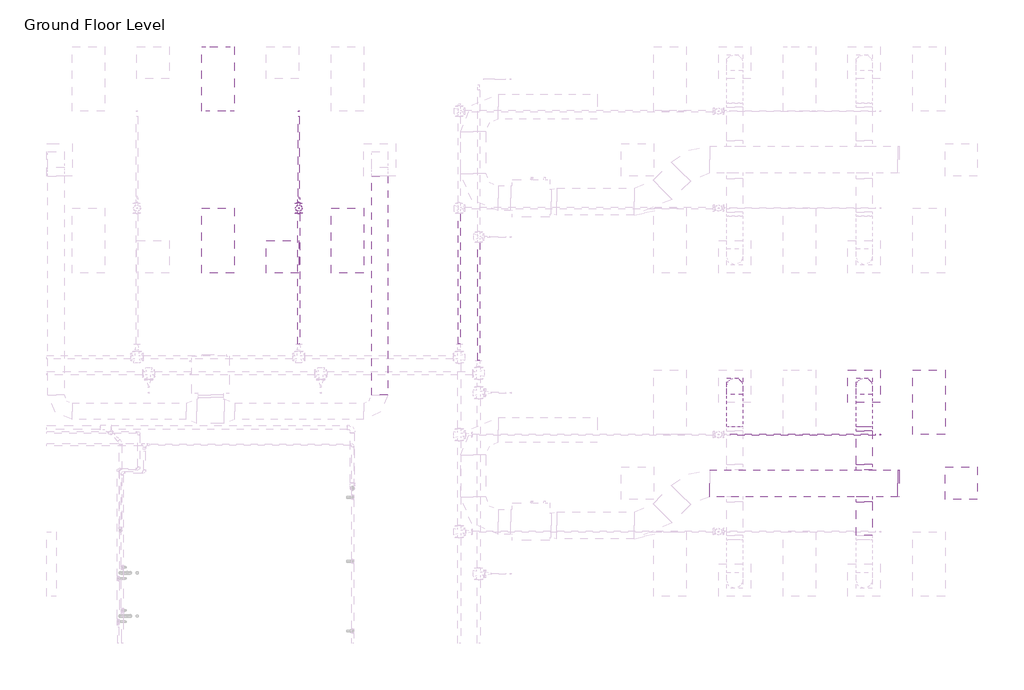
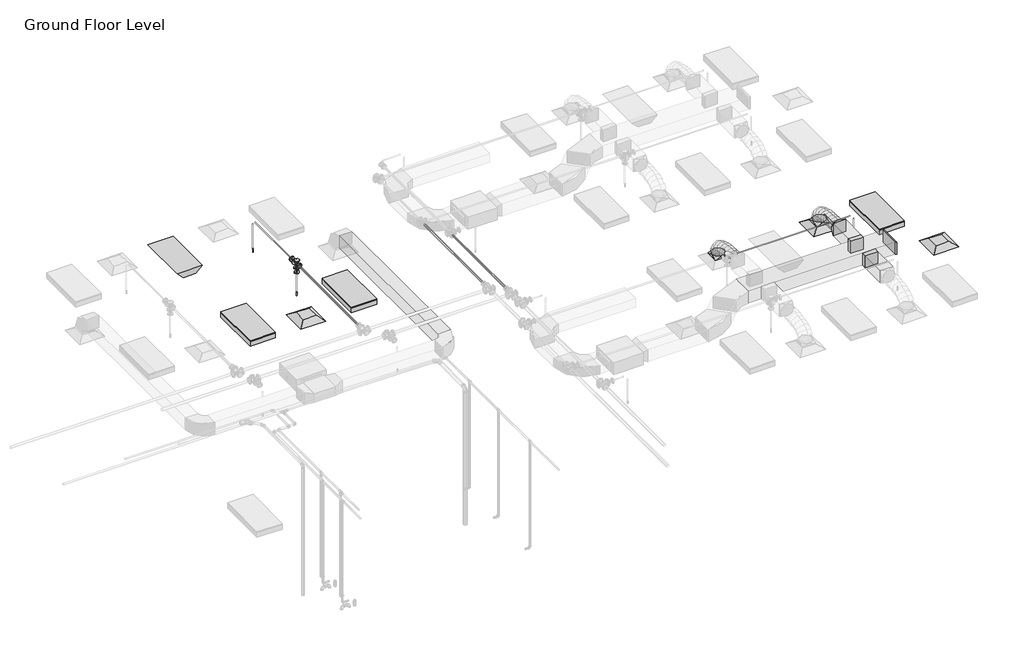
# One storey, part 65 of 68: 8 pipe segments, 6 duct fittings, 6 duct segments, 4 light fixtures, 3 air terminals, 3 fire suppression terminals, 3 pipe fittings.
"""IFC4 building model written with IfcOpenShell, lengths in millimetres."""

from ifc_helpers import new_model, si_unit, point, frame, frame_2d, origin, place, context, project, spatial, polyline, circle_curve, ellipse_curve, trimmed, segment, composite_curve, outline, extrude, transform, mapped, element, save
from ifc_brep_helpers import plane_surface, cylinder_surface, advanced_brep
from components import m_return_diffuser_600_x_600_face_300_x_300_connection_ff221211, m_rectangular_endcap_standard_72d4d00d, m_rectangular_takeoff_standard_cb0ccb98, m_rectangular_takeoff_standard_2be5eba1, m_rectangular_to_round_transition_angle_45_degree_641efff0, m_sprinkler_dry_pendent_hosted_15_mm_dry_pendent_9bda8e11, m_emergency_recessed_lighting_fixture_600x1200_277_5b10b25d, m_troffer_light_parabolic_rectangular1_0600x1200mm_4_lamp_86473d4a, m_reducer_flanged_cs_class_150_standard_d42b2106, m_tee_round_base_flanged_cs_class_150_standard_7e5987a1

model = new_model("IFC4")

# Units and contexts
model_context = context("Model", 3, world=origin())
ifc_project = project(units=[si_unit("LENGTHUNIT", "METRE", prefix="MILLI")], contexts=[model_context])

# Site, building, storey
site = spatial("IfcSite", under=ifc_project)
building = spatial("IfcBuilding", under=site)
storey = spatial("IfcBuildingStorey", under=building, Name="Ground Floor Level", Elevation=900.0)

# Air terminals
placement = place(None, origin())
m_return_diffuser_600_x_600_face_300_x_300_connection_shape = m_return_diffuser_600_x_600_face_300_x_300_connection_ff221211(model_context)
element("IfcAirTerminal", 1, ObjectType="M_Return Diffuser : 600 x 600 Face 300 x 300 Connection", at=placement, inside=storey, context=model_context, shape_type="MappedRepresentation", body=[
    mapped(m_return_diffuser_600_x_600_face_300_x_300_connection_shape, transform((14942.7672395, 12735.2153534, 3650.0), x_axis=(1.0, 0.0, 0.0), y_axis=(0.0, 1.0, 0.0), z_axis=(0.0, 0.0, 1.0))),
])
element("IfcAirTerminal", 2, ObjectType="M_Supply Diffuser : 600 x 600 Face 300 x 300 Connection", at=placement, inside=storey, context=model_context, shape_type="MappedRepresentation", body=[
    mapped(m_return_diffuser_600_x_600_face_300_x_300_connection_shape, transform((2362.7672395, 16935.2153534, 3650.0), x_axis=(1.0, 0.0, 0.0), y_axis=(0.0, 1.0, 0.0), z_axis=(0.0, 0.0, 1.0))),
])
element("IfcAirTerminal", 3, ObjectType="M_Supply Diffuser : 600 x 600 Face 300 x 300 Connection", at=placement, inside=storey, context=model_context, shape_type="MappedRepresentation", body=[
    mapped(m_return_diffuser_600_x_600_face_300_x_300_connection_shape, transform((13142.7672395, 14535.2153534, 3650.0), x_axis=(1.0, 0.0, 0.0), y_axis=(0.0, 1.0, 0.0), z_axis=(0.0, 0.0, 1.0))),
])

# Duct fittings
m_rectangular_endcap_standard_shape = m_rectangular_endcap_standard_72d4d00d(model_context)
element("IfcDuctFitting", 4, ObjectType="M_Rectangular Endcap : Standard", at=placement, inside=storey, context=model_context, shape_type="MappedRepresentation", body=[
    mapped(m_rectangular_endcap_standard_shape, transform((13766.7301365, 12735.2153534, 4100.0), x_axis=(1.0, 0.0, 0.0), y_axis=(0.0, 1.0, 0.0), z_axis=(0.0, 0.0, 1.0))),
])
m_rectangular_takeoff_standard_shape = m_rectangular_takeoff_standard_cb0ccb98(model_context)
element("IfcDuctFitting", 5, ObjectType="M_Rectangular Takeoff : Standard", at=placement, inside=storey, context=model_context, shape_type="MappedRepresentation", body=[
    mapped(m_rectangular_takeoff_standard_shape, transform((13142.7672395, 12985.2153534, 4100.0), x_axis=(0.0, 1.0, 0.0), y_axis=(1.0, 0.0, 0.0), z_axis=(0.0, 0.0, -1.0))),
])
m_rectangular_takeoff_standard_2_shape = m_rectangular_takeoff_standard_2be5eba1(model_context)
element("IfcDuctFitting", 6, ObjectType="M_Rectangular Takeoff : Standard", at=placement, inside=storey, context=model_context, shape_type="MappedRepresentation", body=[
    mapped(m_rectangular_takeoff_standard_2_shape, transform((13142.7672395, 12485.2153534, 4100.0), x_axis=(0.0, -1.0, 0.0), y_axis=(-1.0, 0.0, 0.0), z_axis=(0.0, 0.0, -1.0))),
])
m_rectangular_to_round_transition_angle_45_degree_shape = m_rectangular_to_round_transition_angle_45_degree_641efff0(model_context)
element("IfcDuctFitting", 7, ObjectType="M_Rectangular to Round Transition - Angle : 45 Degree", at=placement, inside=storey, context=model_context, shape_type="MappedRepresentation", body=[
    mapped(m_rectangular_to_round_transition_angle_45_degree_shape, transform((10742.7672395, 14535.2153534, 3751.6), x_axis=(0.0, 0.0, 1.0), y_axis=(-1.0, 0.0, 0.0), z_axis=(0.0, -1.0, 0.0))),
])
element("IfcDuctFitting", 8, ObjectType="M_Rectangular to Round Transition - Angle : 45 Degree", at=placement, inside=storey, context=model_context, shape_type="MappedRepresentation", body=[
    mapped(m_rectangular_to_round_transition_angle_45_degree_shape, transform((13142.7672395, 14535.2153534, 3751.6), x_axis=(0.0, 0.0, 1.0), y_axis=(-1.0, 0.0, 0.0), z_axis=(0.0, -1.0, 0.0))),
])
element("IfcDuctFitting", 9, ObjectType="M_Rectangular to Round Transition - Angle : 45 Degree", at=placement, inside=storey, context=model_context, shape_type="MappedRepresentation", body=[
    mapped(m_rectangular_to_round_transition_angle_45_degree_shape, transform((13142.7672395, 13707.8794221, 4100.0), x_axis=(0.0, 1.0, 0.0), y_axis=(-1.0, 0.0, 0.0), z_axis=(0.0, 0.0, 1.0))),
])

# Duct segments
element("IfcDuctSegment", 10, ObjectType="Flex - Round", at=placement, inside=storey, context=model_context, shape_type="AdvancedBrep", body=[
    advanced_brep(
    [(10892.7672395, 14535.2153534, 3826.6), (10742.7672395, 14385.2153534, 3826.6), (10592.7672395, 14535.2153534, 3826.6), (10742.7672395, 14685.2153534, 3826.6), (10892.7672395, 14535.2153534, 3857.9377114), (10742.7672395, 14385.2153534, 3832.2944892), (10592.7672395, 14535.2153534, 3857.9377114), (10742.7672395, 14685.2153534, 3883.5809337), (10892.7672395, 14518.1994208, 3906.2505728), (10742.7672395, 14384.4614419, 3834.435049), (10592.7672395, 14518.1994208, 3906.2505728), (10742.7672395, 14651.9373998, 3978.0660967), (10892.7672395, 14471.0155405, 3968.7113131), (10742.7672395, 14366.8096412, 3857.8020236), (10592.7672395, 14471.0155405, 3968.7113131), (10742.7672395, 14575.2214397, 4079.6206026), (10892.7672395, 14399.4595883, 4016.0700639), (10742.7672395, 14330.5255327, 3881.8163788), (10592.7672395, 14399.4595883, 4016.0700639), (10742.7672395, 14468.3936439, 4150.3237489), (10892.7672395, 14309.3274403, 4050.4146682), (10742.7672395, 14265.7666771, 3906.4925606), (10592.7672395, 14309.3274403, 4050.4146682), (10742.7672395, 14352.8882035, 4194.3367758), (10892.7672395, 14206.4149725, 4073.8329691), (10742.7672395, 14179.8540485, 3926.0424542), (10592.7672395, 14206.4149725, 4073.8329691), (10742.7672395, 14232.9758965, 4221.6234841), (10892.7672395, 14096.5180607, 4088.4128097), (10742.7672395, 14081.3671584, 3939.1085462), (10592.7672395, 14096.5180607, 4088.4128097), (10742.7672395, 14111.6689631, 4237.7170733), (10892.7672395, 13985.4325811, 4096.242033), (10742.7672395, 13977.9272529, 3946.398915), (10592.7672395, 13985.4325811, 4096.242033), (10742.7672395, 13992.9379093, 4246.085151), (10892.7672395, 13878.9544096, 4099.4084821), (10742.7672395, 13876.2629165, 3949.4222102), (10592.7672395, 13878.9544096, 4099.4084821), (10742.7672395, 13881.6459027, 4249.394754), (10892.7672395, 13782.8794221, 4100.0), (10742.7672395, 13783.8029299, 4249.9971571), (10592.7672395, 13782.8794221, 4100.0), (10742.7672395, 13781.9559143, 3950.0028429)],
    [
        (0, 1, circle_curve(frame((10742.7672395, 14535.2153534, 3826.6), z_axis=(0.0, 0.0, -1.0), x_axis=(1.0, 0.0, 0.0)), 150.0)),
        (1, 2, circle_curve(frame((10742.7672395, 14535.2153534, 3826.6), z_axis=(0.0, 0.0, -1.0), x_axis=(1.0, 0.0, 0.0)), 150.0)),
        (2, 3, circle_curve(frame((10742.7672395, 14535.2153534, 3826.6), z_axis=(0.0, 0.0, -1.0), x_axis=(1.0, 0.0, 0.0)), 150.0)),
        (3, 0, circle_curve(frame((10742.7672395, 14535.2153534, 3826.6), z_axis=(0.0, 0.0, -1.0), x_axis=(1.0, 0.0, 0.0)), 150.0)),
        (0, 4),
        (4, 5, ellipse_curve(frame((10742.7672395, 14535.2153534, 3857.9377114), z_axis=(0.0, 0.16851014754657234, -0.9856999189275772), x_axis=(0.0, -0.9856999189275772, -0.1685101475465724)), 152.176131, 150.0)),
        (5, 1),
        (5, 6, ellipse_curve(frame((10742.7672395, 14535.2153534, 3857.9377114), z_axis=(0.0, 0.16851014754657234, -0.9856999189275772), x_axis=(0.0, -0.9856999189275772, -0.1685101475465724)), 152.176131, 150.0)),
        (6, 2),
        (6, 7, ellipse_curve(frame((10742.7672395, 14535.2153534, 3857.9377114), z_axis=(0.0, 0.16851014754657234, -0.9856999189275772), x_axis=(0.0, -0.9856999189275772, -0.1685101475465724)), 152.176131, 150.0)),
        (7, 3),
        (7, 4, ellipse_curve(frame((10742.7672395, 14535.2153534, 3857.9377114), z_axis=(0.0, 0.16851014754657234, -0.9856999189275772), x_axis=(0.0, -0.9856999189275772, -0.1685101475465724)), 152.176131, 150.0)),
        (4, 8),
        (8, 9, ellipse_curve(frame((10742.7672395, 14518.1994208, 3906.2505728), z_axis=(0.0, 0.47309225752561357, -0.8810128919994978), x_axis=(0.0, -0.8810128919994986, -0.47309225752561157)), 151.8002519, 150.0)),
        (9, 5),
        (9, 10, ellipse_curve(frame((10742.7672395, 14518.1994208, 3906.2505728), z_axis=(0.0, 0.47309225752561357, -0.8810128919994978), x_axis=(0.0, -0.8810128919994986, -0.47309225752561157)), 151.8002519, 150.0)),
        (10, 6),
        (10, 11, ellipse_curve(frame((10742.7672395, 14518.1994208, 3906.2505728), z_axis=(0.0, 0.47309225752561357, -0.8810128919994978), x_axis=(0.0, -0.8810128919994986, -0.47309225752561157)), 151.8002519, 150.0)),
        (11, 7),
        (11, 8, ellipse_curve(frame((10742.7672395, 14518.1994208, 3906.2505728), z_axis=(0.0, 0.47309225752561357, -0.8810128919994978), x_axis=(0.0, -0.8810128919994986, -0.47309225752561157)), 151.8002519, 150.0)),
        (8, 12),
        (12, 13, ellipse_curve(frame((10742.7672395, 14471.0155405, 3968.7113131), z_axis=(0.0, 0.7287877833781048, -0.6847396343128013), x_axis=(0.0, -0.6847396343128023, -0.7287877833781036)), 152.1832446, 150.0)),
        (13, 9),
        (13, 14, ellipse_curve(frame((10742.7672395, 14471.0155405, 3968.7113131), z_axis=(0.0, 0.7287877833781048, -0.6847396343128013), x_axis=(0.0, -0.6847396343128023, -0.7287877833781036)), 152.1832446, 150.0)),
        (14, 10),
        (14, 15, ellipse_curve(frame((10742.7672395, 14471.0155405, 3968.7113131), z_axis=(0.0, 0.7287877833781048, -0.6847396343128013), x_axis=(0.0, -0.6847396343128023, -0.7287877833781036)), 152.1832446, 150.0)),
        (15, 11),
        (15, 12, ellipse_curve(frame((10742.7672395, 14471.0155405, 3968.7113131), z_axis=(0.0, 0.7287877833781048, -0.6847396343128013), x_axis=(0.0, -0.6847396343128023, -0.7287877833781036)), 152.1832446, 150.0)),
        (12, 16),
        (16, 17, ellipse_curve(frame((10742.7672395, 14399.4595883, 4016.0700639), z_axis=(0.0, 0.8895859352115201, -0.45676784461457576), x_axis=(0.0, -0.45676784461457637, -0.8895859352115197)), 150.91705, 150.0)),
        (17, 13),
        (17, 18, ellipse_curve(frame((10742.7672395, 14399.4595883, 4016.0700639), z_axis=(0.0, 0.8895859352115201, -0.45676784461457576), x_axis=(0.0, -0.45676784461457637, -0.8895859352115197)), 150.91705, 150.0)),
        (18, 14),
        (18, 19, ellipse_curve(frame((10742.7672395, 14399.4595883, 4016.0700639), z_axis=(0.0, 0.8895859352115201, -0.45676784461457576), x_axis=(0.0, -0.45676784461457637, -0.8895859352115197)), 150.91705, 150.0)),
        (19, 15),
        (19, 16, ellipse_curve(frame((10742.7672395, 14399.4595883, 4016.0700639), z_axis=(0.0, 0.8895859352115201, -0.45676784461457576), x_axis=(0.0, -0.45676784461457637, -0.8895859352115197)), 150.91705, 150.0)),
        (16, 20),
        (20, 21, ellipse_curve(frame((10742.7672395, 14309.3274403, 4050.4146682), z_axis=(0.0, 0.9571203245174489, -0.2896906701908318), x_axis=(0.0, -0.28969067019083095, -0.9571203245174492)), 150.369921, 150.0)),
        (21, 17),
        (21, 22, ellipse_curve(frame((10742.7672395, 14309.3274403, 4050.4146682), z_axis=(0.0, 0.9571203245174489, -0.2896906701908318), x_axis=(0.0, -0.28969067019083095, -0.9571203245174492)), 150.369921, 150.0)),
        (22, 18),
        (22, 23, ellipse_curve(frame((10742.7672395, 14309.3274403, 4050.4146682), z_axis=(0.0, 0.9571203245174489, -0.2896906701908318), x_axis=(0.0, -0.28969067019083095, -0.9571203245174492)), 150.369921, 150.0)),
        (23, 19),
        (23, 20, ellipse_curve(frame((10742.7672395, 14309.3274403, 4050.4146682), z_axis=(0.0, 0.9571203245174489, -0.2896906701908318), x_axis=(0.0, -0.28969067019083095, -0.9571203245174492)), 150.369921, 150.0)),
        (20, 24),
        (24, 25, ellipse_curve(frame((10742.7672395, 14206.4149725, 4073.8329691), z_axis=(0.0, 0.9842313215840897, -0.17688613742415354), x_axis=(0.0, -0.1768861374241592, -0.9842313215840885)), 150.1583131, 150.0)),
        (25, 21),
        (25, 26, ellipse_curve(frame((10742.7672395, 14206.4149725, 4073.8329691), z_axis=(0.0, 0.9842313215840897, -0.17688613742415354), x_axis=(0.0, -0.1768861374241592, -0.9842313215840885)), 150.1583131, 150.0)),
        (26, 22),
        (26, 27, ellipse_curve(frame((10742.7672395, 14206.4149725, 4073.8329691), z_axis=(0.0, 0.9842313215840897, -0.17688613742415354), x_axis=(0.0, -0.1768861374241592, -0.9842313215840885)), 150.1583131, 150.0)),
        (27, 23),
        (27, 24, ellipse_curve(frame((10742.7672395, 14206.4149725, 4073.8329691), z_axis=(0.0, 0.9842313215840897, -0.17688613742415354), x_axis=(0.0, -0.1768861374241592, -0.9842313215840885)), 150.1583131, 150.0)),
        (24, 28),
        (28, 29, ellipse_curve(frame((10742.7672395, 14096.5180607, 4088.4128097), z_axis=(0.0, 0.9948906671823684, -0.10095821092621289), x_axis=(0.0, -0.10095821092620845, -0.9948906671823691)), 150.0710264, 150.0)),
        (29, 25),
        (29, 30, ellipse_curve(frame((10742.7672395, 14096.5180607, 4088.4128097), z_axis=(0.0, 0.9948906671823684, -0.10095821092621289), x_axis=(0.0, -0.10095821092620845, -0.9948906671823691)), 150.0710264, 150.0)),
        (30, 26),
        (30, 31, ellipse_curve(frame((10742.7672395, 14096.5180607, 4088.4128097), z_axis=(0.0, 0.9948906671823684, -0.10095821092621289), x_axis=(0.0, -0.10095821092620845, -0.9948906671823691)), 150.0710264, 150.0)),
        (31, 27),
        (31, 28, ellipse_curve(frame((10742.7672395, 14096.5180607, 4088.4128097), z_axis=(0.0, 0.9948906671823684, -0.10095821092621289), x_axis=(0.0, -0.10095821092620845, -0.9948906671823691)), 150.0710264, 150.0)),
        (28, 32),
        (32, 33, ellipse_curve(frame((10742.7672395, 13985.4325811, 4096.242033), z_axis=(0.0, 0.9987479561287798, -0.050025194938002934), x_axis=(0.0, -0.05002519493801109, -0.9987479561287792)), 150.0309634, 150.0)),
        (33, 29),
        (33, 34, ellipse_curve(frame((10742.7672395, 13985.4325811, 4096.242033), z_axis=(0.0, 0.9987479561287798, -0.050025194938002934), x_axis=(0.0, -0.05002519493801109, -0.9987479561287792)), 150.0309634, 150.0)),
        (34, 30),
        (34, 35, ellipse_curve(frame((10742.7672395, 13985.4325811, 4096.242033), z_axis=(0.0, 0.9987479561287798, -0.050025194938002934), x_axis=(0.0, -0.05002519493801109, -0.9987479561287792)), 150.0309634, 150.0)),
        (35, 31),
        (35, 32, ellipse_curve(frame((10742.7672395, 13985.4325811, 4096.242033), z_axis=(0.0, 0.9987479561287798, -0.050025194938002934), x_axis=(0.0, -0.05002519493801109, -0.9987479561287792)), 150.0309634, 150.0)),
        (32, 36),
        (36, 37, ellipse_curve(frame((10742.7672395, 13878.9544096, 4099.4084821), z_axis=(0.0, 0.9998390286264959, -0.017942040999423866), x_axis=(0.0, -0.017942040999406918, -0.9998390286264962)), 150.0104193, 150.0)),
        (37, 33),
        (37, 38, ellipse_curve(frame((10742.7672395, 13878.9544096, 4099.4084821), z_axis=(0.0, 0.9998390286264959, -0.017942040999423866), x_axis=(0.0, -0.017942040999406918, -0.9998390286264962)), 150.0104193, 150.0)),
        (38, 34),
        (38, 39, ellipse_curve(frame((10742.7672395, 13878.9544096, 4099.4084821), z_axis=(0.0, 0.9998390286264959, -0.017942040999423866), x_axis=(0.0, -0.017942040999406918, -0.9998390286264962)), 150.0104193, 150.0)),
        (39, 35),
        (39, 36, ellipse_curve(frame((10742.7672395, 13878.9544096, 4099.4084821), z_axis=(0.0, 0.9998390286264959, -0.017942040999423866), x_axis=(0.0, -0.017942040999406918, -0.9998390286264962)), 150.0104193, 150.0)),
        (40, 41, circle_curve(frame((10742.7672395, 13782.8794221, 4100.0), z_axis=(0.0, -0.9999810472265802, 0.006156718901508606), x_axis=(1.0, 0.0, 0.0)), 150.0)),
        (41, 42, circle_curve(frame((10742.7672395, 13782.8794221, 4100.0), z_axis=(0.0, -0.9999810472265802, 0.006156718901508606), x_axis=(1.0, 0.0, 0.0)), 150.0)),
        (42, 43, circle_curve(frame((10742.7672395, 13782.8794221, 4100.0), z_axis=(0.0, -0.9999810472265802, 0.006156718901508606), x_axis=(1.0, 0.0, 0.0)), 150.0)),
        (43, 40, circle_curve(frame((10742.7672395, 13782.8794221, 4100.0), z_axis=(0.0, -0.9999810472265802, 0.006156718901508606), x_axis=(1.0, 0.0, 0.0)), 150.0)),
        (36, 40),
        (43, 37),
        (42, 38),
        (41, 39),
    ],
    [
        plane_surface(frame((10742.7672395, 14385.2153534, 3826.6), z_axis=(0.0, 0.0, -1.0), x_axis=(1.0, 0.0, 0.0))),
        cylinder_surface(frame((10742.7672395, 14535.2153534, 3826.6), z_axis=(0.0, 0.0, -1.0), x_axis=(1.0, 0.0, 0.0)), 150.0),
        cylinder_surface(frame((10742.7672395, 14535.2153534, 3857.9377114), z_axis=(0.0, 0.3322008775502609, -0.9432086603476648), x_axis=(1.0, 0.0, 0.0)), 150.0),
        cylinder_surface(frame((10742.7672395, 14518.1994208, 3906.2505728), z_axis=(0.0, 0.6027625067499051, -0.7979206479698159), x_axis=(1.0, 0.0, 0.0)), 150.0),
        cylinder_surface(frame((10742.7672395, 14471.0155405, 3968.7113131), z_axis=(0.0, 0.833902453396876, -0.5519118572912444), x_axis=(1.0, 0.0, 0.0)), 150.0),
        cylinder_surface(frame((10742.7672395, 14399.4595883, 4016.0700639), z_axis=(0.0, 0.9344582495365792, -0.35607271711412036), x_axis=(1.0, 0.0, 0.0)), 150.0),
        cylinder_surface(frame((10742.7672395, 14309.3274403, 4050.4146682), z_axis=(0.0, 0.9750732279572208, -0.22188330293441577), x_axis=(1.0, 0.0, 0.0)), 150.0),
        cylinder_surface(frame((10742.7672395, 14206.4149725, 4073.8329691), z_axis=(0.0, 0.9913140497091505, -0.131515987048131), x_axis=(1.0, 0.0, 0.0)), 150.0),
        cylinder_surface(frame((10742.7672395, 14096.5180607, 4088.4128097), z_axis=(0.0, 0.9975255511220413, -0.07030487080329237), x_axis=(1.0, 0.0, 0.0)), 150.0),
        cylinder_surface(frame((10742.7672395, 13985.4325811, 4096.242033), z_axis=(0.0, 0.9995581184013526, -0.029724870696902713), x_axis=(1.0, 0.0, 0.0)), 150.0),
        plane_surface(frame((10742.7672395, 13781.9559143, 3950.0028429), z_axis=(0.0, -0.9999810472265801, 0.0061567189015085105), x_axis=(1.0, 0.0, 0.0))),
        cylinder_surface(frame((10742.7672395, 13878.9544096, 4099.4084821), z_axis=(0.0, 0.9999810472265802, -0.006156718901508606), x_axis=(1.0, 0.0, 0.0)), 150.0),
    ],
    [
        (0, [[1, 2, 3, 4]]),
        (1, [[-1, 5, 6, 7]]),
        (1, [[-2, -7, 8, 9]]),
        (1, [[-3, -9, 10, 11]]),
        (1, [[-4, -11, 12, -5]]),
        (2, [[-6, 13, 14, 15]]),
        (2, [[-8, -15, 16, 17]]),
        (2, [[-10, -17, 18, 19]]),
        (2, [[-12, -19, 20, -13]]),
        (3, [[-14, 21, 22, 23]]),
        (3, [[-16, -23, 24, 25]]),
        (3, [[-18, -25, 26, 27]]),
        (3, [[-20, -27, 28, -21]]),
        (4, [[-22, 29, 30, 31]]),
        (4, [[-24, -31, 32, 33]]),
        (4, [[-26, -33, 34, 35]]),
        (4, [[-28, -35, 36, -29]]),
        (5, [[-30, 37, 38, 39]]),
        (5, [[-32, -39, 40, 41]]),
        (5, [[-34, -41, 42, 43]]),
        (5, [[-36, -43, 44, -37]]),
        (6, [[-38, 45, 46, 47]]),
        (6, [[-40, -47, 48, 49]]),
        (6, [[-42, -49, 50, 51]]),
        (6, [[-44, -51, 52, -45]]),
        (7, [[-46, 53, 54, 55]]),
        (7, [[-48, -55, 56, 57]]),
        (7, [[-50, -57, 58, 59]]),
        (7, [[-52, -59, 60, -53]]),
        (8, [[-54, 61, 62, 63]]),
        (8, [[-56, -63, 64, 65]]),
        (8, [[-58, -65, 66, 67]]),
        (8, [[-60, -67, 68, -61]]),
        (9, [[-62, 69, 70, 71]]),
        (9, [[-64, -71, 72, 73]]),
        (9, [[-66, -73, 74, 75]]),
        (9, [[-68, -75, 76, -69]]),
        (10, [[77, 78, 79, 80]]),
        (11, [[-70, 81, -80, 82]]),
        (11, [[-72, -82, -79, 83]]),
        (11, [[-74, -83, -78, 84]]),
        (11, [[-76, -84, -77, -81]]),
    ],
),
])
element("IfcDuctSegment", 11, ObjectType="Flex - Round", at=placement, inside=storey, context=model_context, shape_type="AdvancedBrep", body=[
    advanced_brep(
    [(13292.7672395, 14535.2153534, 3826.6), (13142.7672395, 14385.2153534, 3826.6), (12992.7672395, 14535.2153534, 3826.6), (13142.7672395, 14685.2153534, 3826.6), (13292.7672395, 14535.2153534, 3857.9377114), (13142.7672395, 14385.2153534, 3832.2944892), (12992.7672395, 14535.2153534, 3857.9377114), (13142.7672395, 14685.2153534, 3883.5809337), (13292.7672395, 14518.1994208, 3906.2505728), (13142.7672395, 14384.4614419, 3834.435049), (12992.7672395, 14518.1994208, 3906.2505728), (13142.7672395, 14651.9373998, 3978.0660967), (13292.7672395, 14471.0155405, 3968.7113131), (13142.7672395, 14366.8096412, 3857.8020236), (12992.7672395, 14471.0155405, 3968.7113131), (13142.7672395, 14575.2214397, 4079.6206026), (13292.7672395, 14399.4595883, 4016.0700639), (13142.7672395, 14330.5255327, 3881.8163788), (12992.7672395, 14399.4595883, 4016.0700639), (13142.7672395, 14468.3936439, 4150.3237489), (13292.7672395, 14309.3274403, 4050.4146682), (13142.7672395, 14265.7666771, 3906.4925606), (12992.7672395, 14309.3274403, 4050.4146682), (13142.7672395, 14352.8882035, 4194.3367758), (13292.7672395, 14206.4149725, 4073.8329691), (13142.7672395, 14179.8540485, 3926.0424542), (12992.7672395, 14206.4149725, 4073.8329691), (13142.7672395, 14232.9758965, 4221.6234841), (13292.7672395, 14096.5180607, 4088.4128097), (13142.7672395, 14081.3671584, 3939.1085462), (12992.7672395, 14096.5180607, 4088.4128097), (13142.7672395, 14111.6689631, 4237.7170733), (13292.7672395, 13985.4325811, 4096.242033), (13142.7672395, 13977.9272529, 3946.398915), (12992.7672395, 13985.4325811, 4096.242033), (13142.7672395, 13992.9379093, 4246.085151), (13292.7672395, 13878.9544096, 4099.4084821), (13142.7672395, 13876.2629165, 3949.4222102), (12992.7672395, 13878.9544096, 4099.4084821), (13142.7672395, 13881.6459027, 4249.394754), (13292.7672395, 13782.8794221, 4100.0), (13142.7672395, 13783.8029299, 4249.9971571), (12992.7672395, 13782.8794221, 4100.0), (13142.7672395, 13781.9559143, 3950.0028429)],
    [
        (0, 1, circle_curve(frame((13142.7672395, 14535.2153534, 3826.6), z_axis=(0.0, 0.0, -1.0), x_axis=(1.0, 0.0, 0.0)), 150.0)),
        (1, 2, circle_curve(frame((13142.7672395, 14535.2153534, 3826.6), z_axis=(0.0, 0.0, -1.0), x_axis=(1.0, 0.0, 0.0)), 150.0)),
        (2, 3, circle_curve(frame((13142.7672395, 14535.2153534, 3826.6), z_axis=(0.0, 0.0, -1.0), x_axis=(1.0, 0.0, 0.0)), 150.0)),
        (3, 0, circle_curve(frame((13142.7672395, 14535.2153534, 3826.6), z_axis=(0.0, 0.0, -1.0), x_axis=(1.0, 0.0, 0.0)), 150.0)),
        (0, 4),
        (4, 5, ellipse_curve(frame((13142.7672395, 14535.2153534, 3857.9377114), z_axis=(0.0, 0.16851014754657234, -0.9856999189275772), x_axis=(0.0, -0.9856999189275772, -0.1685101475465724)), 152.176131, 150.0)),
        (5, 1),
        (5, 6, ellipse_curve(frame((13142.7672395, 14535.2153534, 3857.9377114), z_axis=(0.0, 0.16851014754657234, -0.9856999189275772), x_axis=(0.0, -0.9856999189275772, -0.1685101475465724)), 152.176131, 150.0)),
        (6, 2),
        (6, 7, ellipse_curve(frame((13142.7672395, 14535.2153534, 3857.9377114), z_axis=(0.0, 0.16851014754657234, -0.9856999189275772), x_axis=(0.0, -0.9856999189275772, -0.1685101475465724)), 152.176131, 150.0)),
        (7, 3),
        (7, 4, ellipse_curve(frame((13142.7672395, 14535.2153534, 3857.9377114), z_axis=(0.0, 0.16851014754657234, -0.9856999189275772), x_axis=(0.0, -0.9856999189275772, -0.1685101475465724)), 152.176131, 150.0)),
        (4, 8),
        (8, 9, ellipse_curve(frame((13142.7672395, 14518.1994208, 3906.2505728), z_axis=(0.0, 0.47309225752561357, -0.8810128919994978), x_axis=(0.0, -0.8810128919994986, -0.47309225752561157)), 151.8002519, 150.0)),
        (9, 5),
        (9, 10, ellipse_curve(frame((13142.7672395, 14518.1994208, 3906.2505728), z_axis=(0.0, 0.47309225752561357, -0.8810128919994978), x_axis=(0.0, -0.8810128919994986, -0.47309225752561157)), 151.8002519, 150.0)),
        (10, 6),
        (10, 11, ellipse_curve(frame((13142.7672395, 14518.1994208, 3906.2505728), z_axis=(0.0, 0.47309225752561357, -0.8810128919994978), x_axis=(0.0, -0.8810128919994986, -0.47309225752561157)), 151.8002519, 150.0)),
        (11, 7),
        (11, 8, ellipse_curve(frame((13142.7672395, 14518.1994208, 3906.2505728), z_axis=(0.0, 0.47309225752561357, -0.8810128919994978), x_axis=(0.0, -0.8810128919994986, -0.47309225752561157)), 151.8002519, 150.0)),
        (8, 12),
        (12, 13, ellipse_curve(frame((13142.7672395, 14471.0155405, 3968.7113131), z_axis=(0.0, 0.7287877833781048, -0.6847396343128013), x_axis=(0.0, -0.6847396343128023, -0.7287877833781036)), 152.1832446, 150.0)),
        (13, 9),
        (13, 14, ellipse_curve(frame((13142.7672395, 14471.0155405, 3968.7113131), z_axis=(0.0, 0.7287877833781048, -0.6847396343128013), x_axis=(0.0, -0.6847396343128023, -0.7287877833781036)), 152.1832446, 150.0)),
        (14, 10),
        (14, 15, ellipse_curve(frame((13142.7672395, 14471.0155405, 3968.7113131), z_axis=(0.0, 0.7287877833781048, -0.6847396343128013), x_axis=(0.0, -0.6847396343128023, -0.7287877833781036)), 152.1832446, 150.0)),
        (15, 11),
        (15, 12, ellipse_curve(frame((13142.7672395, 14471.0155405, 3968.7113131), z_axis=(0.0, 0.7287877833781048, -0.6847396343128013), x_axis=(0.0, -0.6847396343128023, -0.7287877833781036)), 152.1832446, 150.0)),
        (12, 16),
        (16, 17, ellipse_curve(frame((13142.7672395, 14399.4595883, 4016.0700639), z_axis=(0.0, 0.8895859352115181, -0.4567678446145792), x_axis=(0.0, -0.4567678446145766, -0.8895859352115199)), 150.91705, 150.0)),
        (17, 13),
        (17, 18, ellipse_curve(frame((13142.7672395, 14399.4595883, 4016.0700639), z_axis=(0.0, 0.8895859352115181, -0.4567678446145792), x_axis=(0.0, -0.4567678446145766, -0.8895859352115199)), 150.91705, 150.0)),
        (18, 14),
        (18, 19, ellipse_curve(frame((13142.7672395, 14399.4595883, 4016.0700639), z_axis=(0.0, 0.8895859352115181, -0.4567678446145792), x_axis=(0.0, -0.4567678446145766, -0.8895859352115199)), 150.91705, 150.0)),
        (19, 15),
        (19, 16, ellipse_curve(frame((13142.7672395, 14399.4595883, 4016.0700639), z_axis=(0.0, 0.8895859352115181, -0.4567678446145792), x_axis=(0.0, -0.4567678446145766, -0.8895859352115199)), 150.91705, 150.0)),
        (16, 20),
        (20, 21, ellipse_curve(frame((13142.7672395, 14309.3274403, 4050.4146682), z_axis=(0.0, 0.9571203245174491, -0.2896906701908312), x_axis=(0.0, -0.2896906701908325, -0.9571203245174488)), 150.369921, 150.0)),
        (21, 17),
        (21, 22, ellipse_curve(frame((13142.7672395, 14309.3274403, 4050.4146682), z_axis=(0.0, 0.9571203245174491, -0.2896906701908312), x_axis=(0.0, -0.2896906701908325, -0.9571203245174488)), 150.369921, 150.0)),
        (22, 18),
        (22, 23, ellipse_curve(frame((13142.7672395, 14309.3274403, 4050.4146682), z_axis=(0.0, 0.9571203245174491, -0.2896906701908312), x_axis=(0.0, -0.2896906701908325, -0.9571203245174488)), 150.369921, 150.0)),
        (23, 19),
        (23, 20, ellipse_curve(frame((13142.7672395, 14309.3274403, 4050.4146682), z_axis=(0.0, 0.9571203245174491, -0.2896906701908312), x_axis=(0.0, -0.2896906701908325, -0.9571203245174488)), 150.369921, 150.0)),
        (20, 24),
        (24, 25, ellipse_curve(frame((13142.7672395, 14206.4149725, 4073.8329691), z_axis=(0.0, 0.9842313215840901, -0.17688613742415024), x_axis=(0.0, -0.1768861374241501, -0.9842313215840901)), 150.1583131, 150.0)),
        (25, 21),
        (25, 26, ellipse_curve(frame((13142.7672395, 14206.4149725, 4073.8329691), z_axis=(0.0, 0.9842313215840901, -0.17688613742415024), x_axis=(0.0, -0.1768861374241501, -0.9842313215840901)), 150.1583131, 150.0)),
        (26, 22),
        (26, 27, ellipse_curve(frame((13142.7672395, 14206.4149725, 4073.8329691), z_axis=(0.0, 0.9842313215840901, -0.17688613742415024), x_axis=(0.0, -0.1768861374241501, -0.9842313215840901)), 150.1583131, 150.0)),
        (27, 23),
        (27, 24, ellipse_curve(frame((13142.7672395, 14206.4149725, 4073.8329691), z_axis=(0.0, 0.9842313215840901, -0.17688613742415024), x_axis=(0.0, -0.1768861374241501, -0.9842313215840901)), 150.1583131, 150.0)),
        (24, 28),
        (28, 29, ellipse_curve(frame((13142.7672395, 14096.5180607, 4088.4128097), z_axis=(0.0, 0.9948906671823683, -0.10095821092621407), x_axis=(0.0, -0.10095821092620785, -0.994890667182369)), 150.0710264, 150.0)),
        (29, 25),
        (29, 30, ellipse_curve(frame((13142.7672395, 14096.5180607, 4088.4128097), z_axis=(0.0, 0.9948906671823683, -0.10095821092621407), x_axis=(0.0, -0.10095821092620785, -0.994890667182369)), 150.0710264, 150.0)),
        (30, 26),
        (30, 31, ellipse_curve(frame((13142.7672395, 14096.5180607, 4088.4128097), z_axis=(0.0, 0.9948906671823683, -0.10095821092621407), x_axis=(0.0, -0.10095821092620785, -0.994890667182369)), 150.0710264, 150.0)),
        (31, 27),
        (31, 28, ellipse_curve(frame((13142.7672395, 14096.5180607, 4088.4128097), z_axis=(0.0, 0.9948906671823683, -0.10095821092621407), x_axis=(0.0, -0.10095821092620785, -0.994890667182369)), 150.0710264, 150.0)),
        (28, 32),
        (32, 33, ellipse_curve(frame((13142.7672395, 13985.4325811, 4096.242033), z_axis=(0.0, 0.9987479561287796, -0.05002519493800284), x_axis=(0.0, -0.05002519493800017, -0.9987479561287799)), 150.0309634, 150.0)),
        (33, 29),
        (33, 34, ellipse_curve(frame((13142.7672395, 13985.4325811, 4096.242033), z_axis=(0.0, 0.9987479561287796, -0.05002519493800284), x_axis=(0.0, -0.05002519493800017, -0.9987479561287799)), 150.0309634, 150.0)),
        (34, 30),
        (34, 35, ellipse_curve(frame((13142.7672395, 13985.4325811, 4096.242033), z_axis=(0.0, 0.9987479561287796, -0.05002519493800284), x_axis=(0.0, -0.05002519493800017, -0.9987479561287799)), 150.0309634, 150.0)),
        (35, 31),
        (35, 32, ellipse_curve(frame((13142.7672395, 13985.4325811, 4096.242033), z_axis=(0.0, 0.9987479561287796, -0.05002519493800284), x_axis=(0.0, -0.05002519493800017, -0.9987479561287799)), 150.0309634, 150.0)),
        (32, 36),
        (36, 37, ellipse_curve(frame((13142.7672395, 13878.9544096, 4099.4084821), z_axis=(0.0, 0.9998390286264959, -0.01794204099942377), x_axis=(0.0, -0.01794204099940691, -0.9998390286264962)), 150.0104193, 150.0)),
        (37, 33),
        (37, 38, ellipse_curve(frame((13142.7672395, 13878.9544096, 4099.4084821), z_axis=(0.0, 0.9998390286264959, -0.01794204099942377), x_axis=(0.0, -0.01794204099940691, -0.9998390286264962)), 150.0104193, 150.0)),
        (38, 34),
        (38, 39, ellipse_curve(frame((13142.7672395, 13878.9544096, 4099.4084821), z_axis=(0.0, 0.9998390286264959, -0.01794204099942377), x_axis=(0.0, -0.01794204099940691, -0.9998390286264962)), 150.0104193, 150.0)),
        (39, 35),
        (39, 36, ellipse_curve(frame((13142.7672395, 13878.9544096, 4099.4084821), z_axis=(0.0, 0.9998390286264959, -0.01794204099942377), x_axis=(0.0, -0.01794204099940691, -0.9998390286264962)), 150.0104193, 150.0)),
        (40, 41, circle_curve(frame((13142.7672395, 13782.8794221, 4100.0), z_axis=(0.0, -0.9999810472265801, 0.006156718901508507), x_axis=(1.0, 0.0, 0.0)), 150.0)),
        (41, 42, circle_curve(frame((13142.7672395, 13782.8794221, 4100.0), z_axis=(0.0, -0.9999810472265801, 0.006156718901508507), x_axis=(1.0, 0.0, 0.0)), 150.0)),
        (42, 43, circle_curve(frame((13142.7672395, 13782.8794221, 4100.0), z_axis=(0.0, -0.9999810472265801, 0.006156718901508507), x_axis=(1.0, 0.0, 0.0)), 150.0)),
        (43, 40, circle_curve(frame((13142.7672395, 13782.8794221, 4100.0), z_axis=(0.0, -0.9999810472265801, 0.006156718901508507), x_axis=(1.0, 0.0, 0.0)), 150.0)),
        (36, 40),
        (43, 37),
        (42, 38),
        (41, 39),
    ],
    [
        plane_surface(frame((13142.7672395, 14385.2153534, 3826.6), z_axis=(0.0, 0.0, -1.0), x_axis=(1.0, 0.0, 0.0))),
        cylinder_surface(frame((13142.7672395, 14535.2153534, 3826.6), z_axis=(0.0, 0.0, -1.0), x_axis=(1.0, 0.0, 0.0)), 150.0),
        cylinder_surface(frame((13142.7672395, 14535.2153534, 3857.9377114), z_axis=(0.0, 0.3322008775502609, -0.9432086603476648), x_axis=(1.0, 0.0, 0.0)), 150.0),
        cylinder_surface(frame((13142.7672395, 14518.1994208, 3906.2505728), z_axis=(0.0, 0.6027625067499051, -0.7979206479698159), x_axis=(1.0, 0.0, 0.0)), 150.0),
        cylinder_surface(frame((13142.7672395, 14471.0155405, 3968.7113131), z_axis=(0.0, 0.833902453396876, -0.5519118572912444), x_axis=(1.0, 0.0, 0.0)), 150.0),
        cylinder_surface(frame((13142.7672395, 14399.4595883, 4016.0700639), z_axis=(0.0, 0.9344582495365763, -0.35607271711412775), x_axis=(1.0, 0.0, 0.0)), 150.0),
        cylinder_surface(frame((13142.7672395, 14309.3274403, 4050.4146682), z_axis=(0.0, 0.9750732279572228, -0.22188330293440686), x_axis=(1.0, 0.0, 0.0)), 150.0),
        cylinder_surface(frame((13142.7672395, 14206.4149725, 4073.8329691), z_axis=(0.0, 0.9913140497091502, -0.13151598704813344), x_axis=(1.0, 0.0, 0.0)), 150.0),
        cylinder_surface(frame((13142.7672395, 14096.5180607, 4088.4128097), z_axis=(0.0, 0.9975255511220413, -0.07030487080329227), x_axis=(1.0, 0.0, 0.0)), 150.0),
        cylinder_surface(frame((13142.7672395, 13985.4325811, 4096.242033), z_axis=(0.0, 0.9995581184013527, -0.02972487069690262), x_axis=(1.0, 0.0, 0.0)), 150.0),
        plane_surface(frame((13142.7672395, 13781.9559143, 3950.0028429), z_axis=(0.0, -0.9999810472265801, 0.0061567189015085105), x_axis=(1.0, 0.0, 0.0))),
        cylinder_surface(frame((13142.7672395, 13878.9544096, 4099.4084821), z_axis=(0.0, 0.9999810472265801, -0.006156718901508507), x_axis=(1.0, 0.0, 0.0)), 150.0),
    ],
    [
        (0, [[1, 2, 3, 4]]),
        (1, [[-1, 5, 6, 7]]),
        (1, [[-2, -7, 8, 9]]),
        (1, [[-3, -9, 10, 11]]),
        (1, [[-4, -11, 12, -5]]),
        (2, [[-6, 13, 14, 15]]),
        (2, [[-8, -15, 16, 17]]),
        (2, [[-10, -17, 18, 19]]),
        (2, [[-12, -19, 20, -13]]),
        (3, [[-14, 21, 22, 23]]),
        (3, [[-16, -23, 24, 25]]),
        (3, [[-18, -25, 26, 27]]),
        (3, [[-20, -27, 28, -21]]),
        (4, [[-22, 29, 30, 31]]),
        (4, [[-24, -31, 32, 33]]),
        (4, [[-26, -33, 34, 35]]),
        (4, [[-28, -35, 36, -29]]),
        (5, [[-30, 37, 38, 39]]),
        (5, [[-32, -39, 40, 41]]),
        (5, [[-34, -41, 42, 43]]),
        (5, [[-36, -43, 44, -37]]),
        (6, [[-38, 45, 46, 47]]),
        (6, [[-40, -47, 48, 49]]),
        (6, [[-42, -49, 50, 51]]),
        (6, [[-44, -51, 52, -45]]),
        (7, [[-46, 53, 54, 55]]),
        (7, [[-48, -55, 56, 57]]),
        (7, [[-50, -57, 58, 59]]),
        (7, [[-52, -59, 60, -53]]),
        (8, [[-54, 61, 62, 63]]),
        (8, [[-56, -63, 64, 65]]),
        (8, [[-58, -65, 66, 67]]),
        (8, [[-60, -67, 68, -61]]),
        (9, [[-62, 69, 70, 71]]),
        (9, [[-64, -71, 72, 73]]),
        (9, [[-66, -73, 74, 75]]),
        (9, [[-68, -75, 76, -69]]),
        (10, [[77, 78, 79, 80]]),
        (11, [[-70, 81, -80, 82]]),
        (11, [[-72, -82, -79, 83]]),
        (11, [[-74, -83, -78, 84]]),
        (11, [[-76, -84, -77, -81]]),
    ],
),
])
element("IfcDuctSegment", 12, ObjectType="Radius Elbows / Taps", at=placement, inside=storey, context=model_context, shape_type="SweptSolid", body=[
    extrude(outline(polyline([(4312.7672395, 14369.8153534), (4012.7672395, 14369.8153534), (4012.7672395, 18435.2153534), (4312.7672395, 18435.2153534), (4312.7672395, 14369.8153534)])), frame((0.0, 0.0, 3925.2872564), z_axis=(0.0, 0.0, 1.0), x_axis=(1.0, 0.0, 0.0)), (0.0, 0.0, 1.0), 300.0),
])
element("IfcDuctSegment", 13, ObjectType="Radius Elbows / Taps", at=placement, inside=storey, context=model_context, shape_type="SweptSolid", body=[
    extrude(outline(polyline([(10277.3903083, 12485.2153534), (10277.3903083, 12985.2153534), (13766.7301365, 12985.2153534), (13766.7301365, 12485.2153534), (10277.3903083, 12485.2153534)])), frame((0.0, 0.0, 3950.0), z_axis=(0.0, 0.0, 1.0), x_axis=(1.0, 0.0, 0.0)), (0.0, 0.0, 1.0), 300.0),
])
element("IfcDuctSegment", 14, ObjectType="Radius Elbows / Taps", at=placement, inside=storey, context=model_context, shape_type="SweptSolid", body=[
    extrude(outline(polyline([(13292.7672395, 13086.8153534), (12992.7672395, 13086.8153534), (12992.7672395, 13707.8794221), (13292.7672395, 13707.8794221), (13292.7672395, 13086.8153534)])), frame((0.0, 0.0, 3950.0), z_axis=(0.0, 0.0, 1.0), x_axis=(1.0, 0.0, 0.0)), (0.0, 0.0, 1.0), 300.0),
])
element("IfcDuctSegment", 15, ObjectType="Radius Elbows / Taps", at=placement, inside=storey, context=model_context, shape_type="SweptSolid", body=[
    extrude(outline(polyline([(12992.7672395, 12383.6153534), (13292.7672395, 12383.6153534), (13292.7672395, 11762.5512847), (12992.7672395, 11762.5512847), (12992.7672395, 12383.6153534)])), frame((0.0, 0.0, 3950.0), z_axis=(0.0, 0.0, 1.0), x_axis=(1.0, 0.0, 0.0)), (0.0, 0.0, 1.0), 300.0),
])

# Fire suppression terminals
m_sprinkler_dry_pendent_hosted_15_mm_dry_pendent_shape = m_sprinkler_dry_pendent_hosted_15_mm_dry_pendent_9bda8e11(model_context)
element("IfcFireSuppressionTerminal", 16, ObjectType="M_Sprinkler - Dry - Pendent - Hosted : 15 mm Dry Pendent", at=placement, inside=storey, context=model_context, shape_type="MappedRepresentation", body=[
    mapped(m_sprinkler_dry_pendent_hosted_15_mm_dry_pendent_shape, transform((2662.7672395, 19635.2153534, 3650.0), x_axis=(1.0, 0.0, 0.0), y_axis=(0.0, -1.0, 0.0), z_axis=(0.0, 0.0, -1.0))),
])
element("IfcFireSuppressionTerminal", 17, ObjectType="M_Sprinkler - Dry - Pendent - Hosted : 15 mm Dry Pendent", at=placement, inside=storey, context=model_context, shape_type="MappedRepresentation", body=[
    mapped(m_sprinkler_dry_pendent_hosted_15_mm_dry_pendent_shape, transform((2662.7672395, 17835.2153534, 3650.0), x_axis=(1.0, 0.0, 0.0), y_axis=(0.0, -1.0, 0.0), z_axis=(0.0, 0.0, -1.0))),
])
element("IfcFireSuppressionTerminal", 18, ObjectType="M_Sprinkler - Dry - Pendent - Hosted : 15 mm Dry Pendent", at=placement, inside=storey, context=model_context, shape_type="MappedRepresentation", body=[
    mapped(m_sprinkler_dry_pendent_hosted_15_mm_dry_pendent_shape, transform((13442.7672395, 13635.2153534, 3650.0), x_axis=(1.0, 0.0, 0.0), y_axis=(0.0, -1.0, 0.0), z_axis=(0.0, 0.0, -1.0))),
])

# Light fixtures
m_emergency_recessed_lighting_fixture_600x1200_277_shape = m_emergency_recessed_lighting_fixture_600x1200_277_5b10b25d(model_context)
element("IfcLightFixture", 19, ObjectType="M_Emergency Recessed Lighting Fixture : 600x1200 - 277", at=placement, inside=storey, context=model_context, shape_type="MappedRepresentation", body=[
    mapped(m_emergency_recessed_lighting_fixture_600x1200_277_shape, transform((862.7672395, 19635.2153534, 3650.0), x_axis=(0.0, 1.0, 0.0), y_axis=(-1.0, 0.0, 0.0), z_axis=(0.0, 0.0, 1.0))),
])
m_troffer_light_parabolic_rectangular1_0600x1200mm_4_lamp_shape = m_troffer_light_parabolic_rectangular1_0600x1200mm_4_lamp_86473d4a(model_context)
element("IfcLightFixture", 20, ObjectType="M_Troffer Light - Parabolic Rectangular1 : 0600x1200mm(4 Lamp) - 277V 2", at=placement, inside=storey, context=model_context, shape_type="MappedRepresentation", body=[
    mapped(m_troffer_light_parabolic_rectangular1_0600x1200mm_4_lamp_shape, transform((1103.3013074, 17253.918855, 3650.0), x_axis=(0.0, 1.0, 0.0), y_axis=(-1.0, 0.0, 0.0), z_axis=(0.0, 0.0, 1.0))),
])
element("IfcLightFixture", 21, ObjectType="M_Troffer Light - Parabolic Rectangular1 : 0600x1200mm(4 Lamp) - 277V 2", at=placement, inside=storey, context=model_context, shape_type="MappedRepresentation", body=[
    mapped(m_troffer_light_parabolic_rectangular1_0600x1200mm_4_lamp_shape, transform((3503.3013074, 17253.918855, 3650.0), x_axis=(0.0, 1.0, 0.0), y_axis=(-1.0, 0.0, 0.0), z_axis=(0.0, 0.0, 1.0))),
])
element("IfcLightFixture", 22, ObjectType="M_Troffer Light - Parabolic Rectangular1 : 0600x1200mm(4 Lamp) - 277V 2", at=placement, inside=storey, context=model_context, shape_type="MappedRepresentation", body=[
    mapped(m_troffer_light_parabolic_rectangular1_0600x1200mm_4_lamp_shape, transform((14283.3013074, 14253.918855, 3650.0), x_axis=(0.0, 1.0, 0.0), y_axis=(-1.0, 0.0, 0.0), z_axis=(0.0, 0.0, 1.0))),
])

# Pipe fittings
m_reducer_flanged_cs_class_150_standard_shape = m_reducer_flanged_cs_class_150_standard_d42b2106(model_context)
element("IfcPipeFitting", 23, ObjectType="M_Reducer - Flanged - CS - Class 150 : Standard", at=placement, inside=storey, context=model_context, shape_type="MappedRepresentation", body=[
    mapped(m_reducer_flanged_cs_class_150_standard_shape, transform((2662.7672395, 17935.9239471, 4360.0), x_axis=(0.0, 1.0, 0.0), y_axis=(-1.0, 0.0, 0.0), z_axis=(0.0, 0.0, 1.0))),
])
element("IfcPipeFitting", 24, ObjectType="M_Reducer - Flanged - CS - Class 150 : Standard", at=placement, inside=storey, context=model_context, shape_type="MappedRepresentation", body=[
    mapped(m_reducer_flanged_cs_class_150_standard_shape, transform((2662.7672395, 17835.2153534, 4259.2914063), x_axis=(0.0, 0.0, -1.0), y_axis=(-1.0, 0.0, 0.0), z_axis=(0.0, 1.0, 0.0))),
])
m_tee_round_base_flanged_cs_class_150_standard_shape = m_tee_round_base_flanged_cs_class_150_standard_7e5987a1(model_context)
element("IfcPipeFitting", 25, ObjectType="M_Tee Round Base - Flanged - CS - Class 150 : Standard", at=placement, inside=storey, context=model_context, shape_type="MappedRepresentation", body=[
    mapped(m_tee_round_base_flanged_cs_class_150_standard_shape, transform((2662.7672395, 17835.2153534, 4360.0), x_axis=(0.0, 1.0, 0.0), y_axis=(0.0, 0.0, 1.0), z_axis=(1.0, 0.0, 0.0))),
])

# Pipe segments
element("IfcPipeSegment", 26, ObjectType="Steel flanged", at=placement, inside=storey, context=model_context, shape_type="SweptSolid", body=[
    extrude(outline(composite_curve([segment(trimmed(circle_curve(frame_2d((4291.0943441, 5997.057812)), 16.7005), [point((4291.0943441, 6013.758312))], [point((4307.7948441, 5997.057812))], False, "CARTESIAN"), True, "CONTINUOUS"), segment(trimmed(circle_curve(frame_2d((4291.0943441, 5997.057812)), 16.7005), [point((4307.7948441, 5997.057812))], [point((4291.0943441, 5980.357312))], False, "CARTESIAN"), True, "CONTINUOUS"), segment(trimmed(circle_curve(frame_2d((4291.0943441, 5997.057812)), 16.7005), [point((4291.0943441, 5980.357312))], [point((4274.3938441, 5997.057812))], False, "CARTESIAN"), True, "CONTINUOUS"), segment(trimmed(circle_curve(frame_2d((4291.0943441, 5997.057812)), 16.7005), [point((4274.3938441, 5997.057812))], [point((4291.0943441, 6013.758312))], False, "CARTESIAN"), True, "CONTINUOUS")], self_intersect=False)), frame((0.0, 15014.4681847, 0.0), z_axis=(0.0, 1.0, 0.0), x_axis=(0.0, 0.0, 1.0)), (0.0, 0.0, 1.0), 2186.6817284),
])
element("IfcPipeSegment", 27, ObjectType="Steel flanged", at=placement, inside=storey, context=model_context, shape_type="SweptSolid", body=[
    extrude(outline(composite_curve([segment(trimmed(circle_curve(frame_2d((2662.7672395, 19635.2153534)), 10.668), [point((2652.0992395, 19635.2153534))], [point((2662.7672395, 19645.8833534))], False, "CARTESIAN"), True, "CONTINUOUS"), segment(trimmed(circle_curve(frame_2d((2662.7672395, 19635.2153534)), 10.668), [point((2662.7672395, 19645.8833534))], [point((2673.4352395, 19635.2153534))], False, "CARTESIAN"), True, "CONTINUOUS"), segment(trimmed(circle_curve(frame_2d((2662.7672395, 19635.2153534)), 10.668), [point((2673.4352395, 19635.2153534))], [point((2662.7672395, 19624.5473534))], False, "CARTESIAN"), True, "CONTINUOUS"), segment(trimmed(circle_curve(frame_2d((2662.7672395, 19635.2153534)), 10.668), [point((2662.7672395, 19624.5473534))], [point((2652.0992395, 19635.2153534))], False, "CARTESIAN"), True, "CONTINUOUS")], self_intersect=False)), frame((0.0, 0.0, 3650.0), z_axis=(0.0, 0.0, 1.0), x_axis=(1.0, 0.0, 0.0)), (0.0, 0.0, 1.0), 616.9914063),
])
element("IfcPipeSegment", 28, ObjectType="Steel flanged", at=placement, inside=storey, context=model_context, shape_type="SweptSolid", body=[
    extrude(outline(composite_curve([segment(trimmed(circle_curve(frame_2d((2662.7672395, 17835.2153534)), 10.668), [point((2652.0992395, 17835.2153534))], [point((2662.7672395, 17845.8833534))], False, "CARTESIAN"), True, "CONTINUOUS"), segment(trimmed(circle_curve(frame_2d((2662.7672395, 17835.2153534)), 10.668), [point((2662.7672395, 17845.8833534))], [point((2673.4352395, 17835.2153534))], False, "CARTESIAN"), True, "CONTINUOUS"), segment(trimmed(circle_curve(frame_2d((2662.7672395, 17835.2153534)), 10.668), [point((2673.4352395, 17835.2153534))], [point((2662.7672395, 17824.5473534))], False, "CARTESIAN"), True, "CONTINUOUS"), segment(trimmed(circle_curve(frame_2d((2662.7672395, 17835.2153534)), 10.668), [point((2662.7672395, 17824.5473534))], [point((2652.0992395, 17835.2153534))], False, "CARTESIAN"), True, "CONTINUOUS")], self_intersect=False)), frame((0.0, 0.0, 3650.0), z_axis=(0.0, 0.0, 1.0), x_axis=(1.0, 0.0, 0.0)), (0.0, 0.0, 1.0), 495.2914062),
])
element("IfcPipeSegment", 29, ObjectType="Steel flanged", at=placement, inside=storey, context=model_context, shape_type="SweptSolid", body=[
    extrude(outline(composite_curve([segment(trimmed(circle_curve(frame_2d((4360.0, 2662.7672395)), 16.7005), [point((4360.0, 2646.0667395))], [point((4343.2995, 2662.7672395))], False, "CARTESIAN"), True, "CONTINUOUS"), segment(trimmed(circle_curve(frame_2d((4360.0, 2662.7672395)), 16.7005), [point((4343.2995, 2662.7672395))], [point((4360.0, 2679.4677395))], False, "CARTESIAN"), True, "CONTINUOUS"), segment(trimmed(circle_curve(frame_2d((4360.0, 2662.7672395)), 16.7005), [point((4360.0, 2679.4677395))], [point((4376.7005, 2662.7672395))], False, "CARTESIAN"), True, "CONTINUOUS"), segment(trimmed(circle_curve(frame_2d((4360.0, 2662.7672395)), 16.7005), [point((4376.7005, 2662.7672395))], [point((4360.0, 2646.0667395))], False, "CARTESIAN"), True, "CONTINUOUS")], self_intersect=False)), frame((0.0, 15314.2009828, 0.0), z_axis=(0.0, 1.0, 0.0), x_axis=(0.0, 0.0, 1.0)), (0.0, 0.0, 1.0), 2420.3057768),
])
element("IfcPipeSegment", 30, ObjectType="Steel flanged", at=placement, inside=storey, context=model_context, shape_type="SweptSolid", body=[
    extrude(outline(composite_curve([segment(trimmed(circle_curve(frame_2d((4360.0, 2662.7672395)), 10.668), [point((4360.0, 2652.0992395))], [point((4349.332, 2662.7672395))], False, "CARTESIAN"), True, "CONTINUOUS"), segment(trimmed(circle_curve(frame_2d((4360.0, 2662.7672395)), 10.668), [point((4349.332, 2662.7672395))], [point((4360.0, 2673.4352395))], False, "CARTESIAN"), True, "CONTINUOUS"), segment(trimmed(circle_curve(frame_2d((4360.0, 2662.7672395)), 10.668), [point((4360.0, 2673.4352395))], [point((4370.668, 2662.7672395))], False, "CARTESIAN"), True, "CONTINUOUS"), segment(trimmed(circle_curve(frame_2d((4360.0, 2662.7672395)), 10.668), [point((4370.668, 2662.7672395))], [point((4360.0, 2652.0992395))], False, "CARTESIAN"), True, "CONTINUOUS")], self_intersect=False)), frame((0.0, 18049.9239471, 0.0), z_axis=(0.0, 1.0, 0.0), x_axis=(0.0, 0.0, 1.0)), (0.0, 0.0, 1.0), 1492.2828125),
])
element("IfcPipeSegment", 31, ObjectType="Steel flanged", at=placement, inside=storey, context=model_context, shape_type="SweptSolid", body=[
    extrude(outline(composite_curve([segment(trimmed(circle_curve(frame_2d((4360.0, 5635.869498)), 16.7005), [point((4360.0, 5652.569998))], [point((4376.7005, 5635.869498))], False, "CARTESIAN"), True, "CONTINUOUS"), segment(trimmed(circle_curve(frame_2d((4360.0, 5635.869498)), 16.7005), [point((4376.7005, 5635.869498))], [point((4360.0, 5619.168998))], False, "CARTESIAN"), True, "CONTINUOUS"), segment(trimmed(circle_curve(frame_2d((4360.0, 5635.869498)), 16.7005), [point((4360.0, 5619.168998))], [point((4343.2995, 5635.869498))], False, "CARTESIAN"), True, "CONTINUOUS"), segment(trimmed(circle_curve(frame_2d((4360.0, 5635.869498)), 16.7005), [point((4343.2995, 5635.869498))], [point((4360.0, 5652.569998))], False, "CARTESIAN"), True, "CONTINUOUS")], self_intersect=False)), frame((0.0, 15314.2009828, 0.0), z_axis=(0.0, 1.0, 0.0), x_axis=(0.0, 0.0, 1.0)), (0.0, 0.0, 1.0), 2420.3057768),
])
element("IfcPipeSegment", 32, ObjectType="Steel flanged", at=placement, inside=storey, context=model_context, shape_type="SweptSolid", body=[
    extrude(outline(composite_curve([segment(trimmed(circle_curve(frame_2d((13442.7672395, 13635.2153534)), 10.668), [point((13432.0992395, 13635.2153534))], [point((13442.7672395, 13645.8833534))], False, "CARTESIAN"), True, "CONTINUOUS"), segment(trimmed(circle_curve(frame_2d((13442.7672395, 13635.2153534)), 10.668), [point((13442.7672395, 13645.8833534))], [point((13453.4352395, 13635.2153534))], False, "CARTESIAN"), True, "CONTINUOUS"), segment(trimmed(circle_curve(frame_2d((13442.7672395, 13635.2153534)), 10.668), [point((13453.4352395, 13635.2153534))], [point((13442.7672395, 13624.5473534))], False, "CARTESIAN"), True, "CONTINUOUS"), segment(trimmed(circle_curve(frame_2d((13442.7672395, 13635.2153534)), 10.668), [point((13442.7672395, 13624.5473534))], [point((13432.0992395, 13635.2153534))], False, "CARTESIAN"), True, "CONTINUOUS")], self_intersect=False)), frame((0.0, 0.0, 3650.0), z_axis=(0.0, 0.0, 1.0), x_axis=(1.0, 0.0, 0.0)), (0.0, 0.0, 1.0), 616.9914062),
])
element("IfcPipeSegment", 33, ObjectType="Steel flanged", at=placement, inside=storey, context=model_context, shape_type="SweptSolid", body=[
    extrude(outline(composite_curve([segment(trimmed(circle_curve(frame_2d((13635.2153534, 4360.0)), 10.668), [point((13645.8833534, 4360.0))], [point((13635.2153534, 4349.332))], False, "CARTESIAN"), True, "CONTINUOUS"), segment(trimmed(circle_curve(frame_2d((13635.2153534, 4360.0)), 10.668), [point((13635.2153534, 4349.332))], [point((13624.5473534, 4360.0))], False, "CARTESIAN"), True, "CONTINUOUS"), segment(trimmed(circle_curve(frame_2d((13635.2153534, 4360.0)), 10.668), [point((13624.5473534, 4360.0))], [point((13635.2153534, 4370.668))], False, "CARTESIAN"), True, "CONTINUOUS"), segment(trimmed(circle_curve(frame_2d((13635.2153534, 4360.0)), 10.668), [point((13635.2153534, 4370.668))], [point((13645.8833534, 4360.0))], False, "CARTESIAN"), True, "CONTINUOUS")], self_intersect=False)), frame((10657.4758332, 0.0, 0.0), z_axis=(1.0, 0.0, 0.0), x_axis=(0.0, 1.0, 0.0)), (0.0, 0.0, 1.0), 2692.2828125),
])

save(model, "model.ifc")
